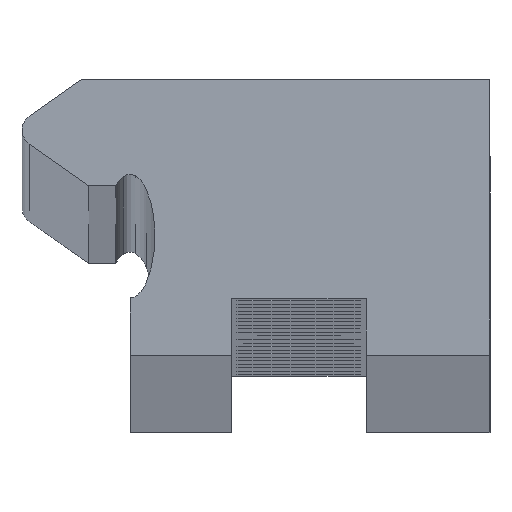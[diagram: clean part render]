
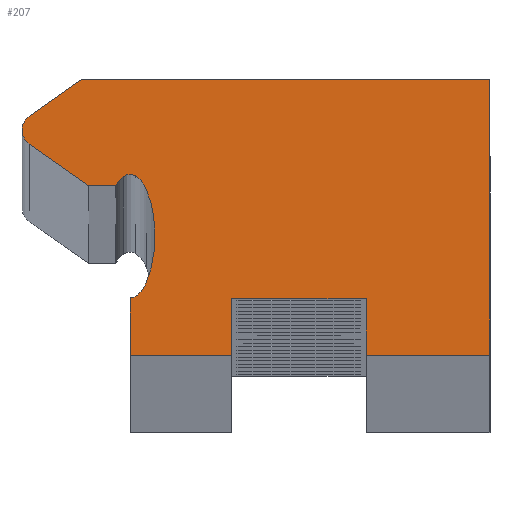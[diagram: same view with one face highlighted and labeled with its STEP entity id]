
A CAD part, top view. The second image highlights one B-rep face of the part: STEP entity #207.
In plain terms, the highlighted planar face has unit normal (0, 0, 1).
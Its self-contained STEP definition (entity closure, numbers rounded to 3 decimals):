
#207=ADVANCED_FACE('',(#539),#540,.F.);
#539=FACE_OUTER_BOUND('',#871,.T.);
#540=PLANE('',#872);
#871=EDGE_LOOP('',(#1902,#1903,#1904,#1905,#1906,#1907,#1908,#1909,#1910,#1911,#1912,#1913,#1914,#1915,#1916,#1917,#1918,#1919,#1920,#1921,#1922));
#872=AXIS2_PLACEMENT_3D('',#1923,#1924,#1925);
#1902=ORIENTED_EDGE('',*,*,#2252,.F.);
#1903=ORIENTED_EDGE('',*,*,#2200,.F.);
#1904=ORIENTED_EDGE('',*,*,#2204,.F.);
#1905=ORIENTED_EDGE('',*,*,#2207,.F.);
#1906=ORIENTED_EDGE('',*,*,#2210,.F.);
#1907=ORIENTED_EDGE('',*,*,#2213,.F.);
#1908=ORIENTED_EDGE('',*,*,#2216,.F.);
#1909=ORIENTED_EDGE('',*,*,#2219,.F.);
#1910=ORIENTED_EDGE('',*,*,#2221,.F.);
#1911=ORIENTED_EDGE('',*,*,#1931,.F.);
#1912=ORIENTED_EDGE('',*,*,#2224,.F.);
#1913=ORIENTED_EDGE('',*,*,#2227,.F.);
#1914=ORIENTED_EDGE('',*,*,#2230,.F.);
#1915=ORIENTED_EDGE('',*,*,#2233,.T.);
#1916=ORIENTED_EDGE('',*,*,#2236,.T.);
#1917=ORIENTED_EDGE('',*,*,#2239,.T.);
#1918=ORIENTED_EDGE('',*,*,#2242,.T.);
#1919=ORIENTED_EDGE('',*,*,#2243,.T.);
#1920=ORIENTED_EDGE('',*,*,#1929,.T.);
#1921=ORIENTED_EDGE('',*,*,#2247,.T.);
#1922=ORIENTED_EDGE('',*,*,#2250,.T.);
#1923=CARTESIAN_POINT('',(-0.857,6.381,1976.0));
#1924=DIRECTION('',(0.,0.0,-1.0));
#1925=DIRECTION('',(-1.0,0.0,0.));
#1929=EDGE_CURVE('',#2254,#2258,#2260,.T.);
#1931=EDGE_CURVE('',#2261,#2264,#2265,.T.);
#2200=EDGE_CURVE('',#2712,#2714,#2715,.T.);
#2204=EDGE_CURVE('',#2719,#2712,#2721,.T.);
#2207=EDGE_CURVE('',#2724,#2719,#2726,.T.);
#2210=EDGE_CURVE('',#2729,#2724,#2731,.T.);
#2213=EDGE_CURVE('',#2734,#2729,#2736,.T.);
#2216=EDGE_CURVE('',#2739,#2734,#2741,.T.);
#2219=EDGE_CURVE('',#2744,#2739,#2746,.T.);
#2221=EDGE_CURVE('',#2264,#2744,#2748,.T.);
#2224=EDGE_CURVE('',#2751,#2261,#2753,.T.);
#2227=EDGE_CURVE('',#2756,#2751,#2758,.T.);
#2230=EDGE_CURVE('',#2761,#2756,#2763,.T.);
#2233=EDGE_CURVE('',#2761,#2766,#2768,.T.);
#2236=EDGE_CURVE('',#2766,#2771,#2773,.T.);
#2239=EDGE_CURVE('',#2771,#2776,#2778,.T.);
#2242=EDGE_CURVE('',#2776,#2781,#2783,.T.);
#2243=EDGE_CURVE('',#2781,#2254,#2784,.T.);
#2247=EDGE_CURVE('',#2258,#2788,#2790,.T.);
#2250=EDGE_CURVE('',#2788,#2793,#2795,.T.);
#2252=EDGE_CURVE('',#2714,#2793,#2797,.T.);
#2254=VERTEX_POINT('',#2799);
#2258=VERTEX_POINT('',#2804);
#2260=CIRCLE('',#2807,5.672);
#2261=VERTEX_POINT('',#2808);
#2264=VERTEX_POINT('',#2812);
#2265=CIRCLE('',#2813,0.76);
#2712=VERTEX_POINT('',#3350);
#2714=VERTEX_POINT('',#3353);
#2715=LINE('',#3354,#3355);
#2719=VERTEX_POINT('',#3361);
#2721=LINE('',#3364,#3365);
#2724=VERTEX_POINT('',#3369);
#2726=LINE('',#3372,#3373);
#2729=VERTEX_POINT('',#3377);
#2731=LINE('',#3380,#3381);
#2734=VERTEX_POINT('',#3385);
#2736=LINE('',#3388,#3389);
#2739=VERTEX_POINT('',#3393);
#2741=LINE('',#3396,#3397);
#2744=VERTEX_POINT('',#3401);
#2746=LINE('',#3404,#3405);
#2748=LINE('',#3408,#3409);
#2751=VERTEX_POINT('',#3412);
#2753=CIRCLE('',#3415,0.76);
#2756=VERTEX_POINT('',#3419);
#2758=LINE('',#3422,#3423);
#2761=VERTEX_POINT('',#3427);
#2763=LINE('',#3430,#3431);
#2766=VERTEX_POINT('',#3434);
#2768=CIRCLE('',#3437,1.115);
#2771=VERTEX_POINT('',#3440);
#2773=CIRCLE('',#3443,0.494);
#2776=VERTEX_POINT('',#3446);
#2778=CIRCLE('',#3449,1.172);
#2781=VERTEX_POINT('',#3452);
#2783=CIRCLE('',#3455,4.816);
#2784=CIRCLE('',#3456,5.672);
#2788=VERTEX_POINT('',#3460);
#2790=CIRCLE('',#3463,1.55);
#2793=VERTEX_POINT('',#3466);
#2795=CIRCLE('',#3469,0.555);
#2797=LINE('',#3472,#3473);
#2799=CARTESIAN_POINT('',(-6.397,5.26,1976.0));
#2804=CARTESIAN_POINT('',(-6.779,3.212,1976.0));
#2807=AXIS2_PLACEMENT_3D('',#3479,#3480,#3481);
#2808=CARTESIAN_POINT('',(-12.305,10.0,1976.0));
#2812=CARTESIAN_POINT('',(-11.981,10.623,1976.0));
#2813=AXIS2_PLACEMENT_3D('',#3483,#3484,#3485);
#3350=CARTESIAN_POINT('',(-3.,0.0,1976.0));
#3353=CARTESIAN_POINT('',(-7.5,0.0,1976.0));
#3354=CARTESIAN_POINT('',(-3.,0.0,1976.0));
#3355=VECTOR('',#4108,1.0);
#3361=CARTESIAN_POINT('',(-3.,2.5,1976.0));
#3364=CARTESIAN_POINT('',(-3.,2.5,1976.0));
#3365=VECTOR('',#4112,1.0);
#3369=CARTESIAN_POINT('',(3.,2.5,1976.0));
#3372=CARTESIAN_POINT('',(3.,2.5,1976.0));
#3373=VECTOR('',#4115,1.0);
#3377=CARTESIAN_POINT('',(3.,0.0,1976.0));
#3380=CARTESIAN_POINT('',(3.,0.0,1976.0));
#3381=VECTOR('',#4118,1.0);
#3385=CARTESIAN_POINT('',(8.5,0.0,1976.0));
#3388=CARTESIAN_POINT('',(8.5,0.0,1976.0));
#3389=VECTOR('',#4121,1.0);
#3393=CARTESIAN_POINT('',(8.5,12.26,1976.0));
#3396=CARTESIAN_POINT('',(8.5,12.26,1976.0));
#3397=VECTOR('',#4124,1.0);
#3401=CARTESIAN_POINT('',(-9.642,12.26,1976.0));
#3404=CARTESIAN_POINT('',(-9.642,12.26,1976.0));
#3405=VECTOR('',#4127,1.0);
#3408=CARTESIAN_POINT('',(-11.981,10.623,1976.0));
#3409=VECTOR('',#4129,1.0);
#3412=CARTESIAN_POINT('',(-11.981,9.377,1976.0));
#3415=AXIS2_PLACEMENT_3D('',#4134,#4135,#4136);
#3419=CARTESIAN_POINT('',(-9.342,7.53,1976.0));
#3422=CARTESIAN_POINT('',(-9.342,7.53,1976.0));
#3423=VECTOR('',#4139,1.0);
#3427=CARTESIAN_POINT('',(-8.138,7.53,1976.0));
#3430=CARTESIAN_POINT('',(-8.138,7.53,1976.0));
#3431=VECTOR('',#4142,1.0);
#3434=CARTESIAN_POINT('',(-7.811,7.928,1976.0));
#3437=AXIS2_PLACEMENT_3D('',#4147,#4148,#4149);
#3440=CARTESIAN_POINT('',(-7.267,7.978,1976.0));
#3443=AXIS2_PLACEMENT_3D('',#4154,#4155,#4156);
#3446=CARTESIAN_POINT('',(-6.773,7.354,1976.0));
#3449=AXIS2_PLACEMENT_3D('',#4161,#4162,#4163);
#3452=CARTESIAN_POINT('',(-6.407,5.605,1976.0));
#3455=AXIS2_PLACEMENT_3D('',#4168,#4169,#4170);
#3456=AXIS2_PLACEMENT_3D('',#4171,#4172,#4173);
#3460=CARTESIAN_POINT('',(-7.172,2.665,1976.0));
#3463=AXIS2_PLACEMENT_3D('',#4181,#4182,#4183);
#3466=CARTESIAN_POINT('',(-7.5,2.54,1976.0));
#3469=AXIS2_PLACEMENT_3D('',#4188,#4189,#4190);
#3472=CARTESIAN_POINT('',(-7.5,0.0,1976.0));
#3473=VECTOR('',#4192,1.0);
#3479=CARTESIAN_POINT('',(-12.069,5.26,1976.0));
#3480=DIRECTION('',(0.,0.0,-1.0));
#3481=DIRECTION('',(-1.0,0.0,0.));
#3483=CARTESIAN_POINT('',(-11.545,10.0,1976.0));
#3484=DIRECTION('',(0.,0.0,-1.0));
#3485=DIRECTION('',(-1.0,0.0,0.));
#4108=DIRECTION('',(-1.0,0.0,0.));
#4112=DIRECTION('',(0.0,-1.0,-0.0));
#4115=DIRECTION('',(-1.0,0.0,0.));
#4118=DIRECTION('',(0.0,1.0,0.0));
#4121=DIRECTION('',(-1.0,0.0,0.));
#4124=DIRECTION('',(0.0,-1.0,-0.0));
#4127=DIRECTION('',(1.0,0.0,0.));
#4129=DIRECTION('',(0.819,0.574,0.));
#4134=CARTESIAN_POINT('',(-11.545,10.0,1976.0));
#4135=DIRECTION('',(0.,0.0,-1.0));
#4136=DIRECTION('',(-1.0,0.0,0.));
#4139=DIRECTION('',(-0.819,0.574,0.));
#4142=DIRECTION('',(-1.0,0.0,0.));
#4147=CARTESIAN_POINT('',(-7.137,7.04,1976.0));
#4148=DIRECTION('',(0.,0.0,-1.0));
#4149=DIRECTION('',(-1.0,0.0,0.));
#4154=CARTESIAN_POINT('',(-7.501,7.542,1976.0));
#4155=DIRECTION('',(0.,0.0,-1.0));
#4156=DIRECTION('',(-1.0,0.0,0.));
#4161=CARTESIAN_POINT('',(-7.884,6.982,1976.0));
#4162=DIRECTION('',(0.,0.0,-1.0));
#4163=DIRECTION('',(-1.0,0.0,0.));
#4168=CARTESIAN_POINT('',(-11.223,5.511,1976.0));
#4169=DIRECTION('',(0.,0.0,-1.0));
#4170=DIRECTION('',(-1.0,0.0,0.));
#4171=CARTESIAN_POINT('',(-12.069,5.26,1976.0));
#4172=DIRECTION('',(0.,0.0,-1.0));
#4173=DIRECTION('',(-1.0,0.0,0.));
#4181=CARTESIAN_POINT('',(-8.205,3.82,1976.0));
#4182=DIRECTION('',(0.,0.0,-1.0));
#4183=DIRECTION('',(-1.0,0.0,0.));
#4188=CARTESIAN_POINT('',(-7.524,3.095,1976.0));
#4189=DIRECTION('',(0.,0.0,-1.0));
#4190=DIRECTION('',(-1.0,0.0,0.));
#4192=DIRECTION('',(0.0,1.0,0.0));
